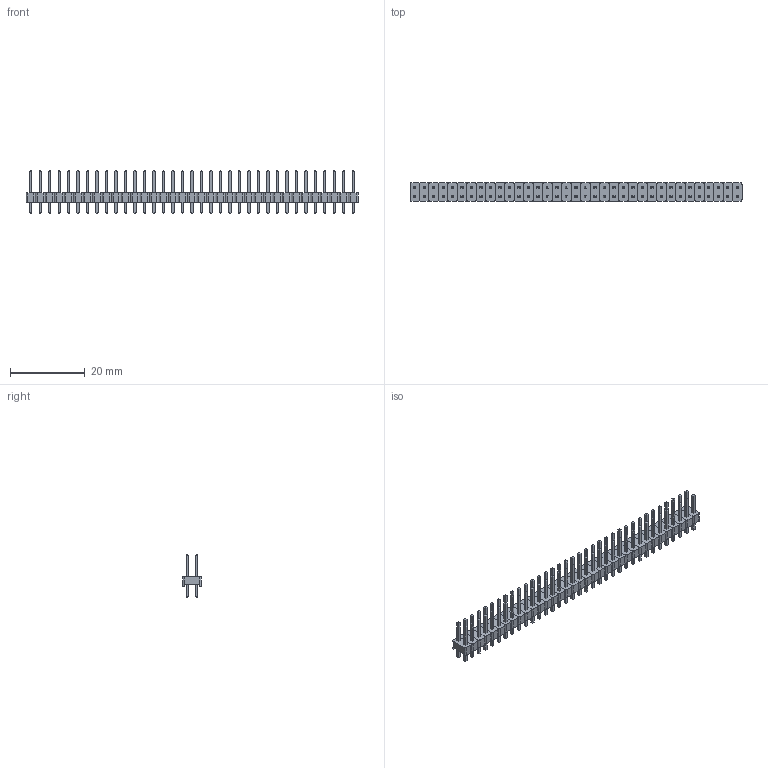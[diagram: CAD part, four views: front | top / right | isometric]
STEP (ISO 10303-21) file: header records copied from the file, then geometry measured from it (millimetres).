
FILE_DESCRIPTION(('FreeCAD Model'),'2;1');
FILE_NAME('Open CASCADE Shape Model','2022-04-06T16:10:10',( 'Engenharia Metaltex'),('Metaltex'), 'Open CASCADE STEP processor 7.5','FreeCAD','Unknown');
FILE_SCHEMA(('AUTOMOTIVE_DESIGN { 1 0 10303 214 1 1 1 1 }'));
Length unit declared in the file: millimetre
Products named in the file (141): BPDC; 35; Base034; Pino070; Pino069; 1; Base; Pino1; Pino2; 2; Base001; Pino003; Pino004; 3; Base002; Pino006; Pino005; 4; Base003; Pino008; Pino007; 5; Base004; Pino009; Pino010; 6; Base005; Pino012; Pino011; 7; Base006; Pino013; Pino014; 8; Base007; Pino015; Pino016; 9; Base008; Pino017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
Assembly tree (140 placements, depth 3):
  BPDC
    35
      Base034
      Pino070
      Pino069
    1
      Base
      Pino1
      Pino2
    2
      Base001
      Pino003
      Pino004
    3
      Base002
      Pino006
      Pino005
    4
      Base003
      Pino008
      Pino007
    5
      Base004
      Pino009
      Pino010
    6
      Base005
      Pino012
      Pino011
    7
      Base006
      Pino013
      Pino014
    8
      Base007
      Pino015
      Pino016
    9
      Base008
      Pino017
      Pino018
    10
      Base009
      Pino019
      Pino020
    11
      Base010
      Pino021
      Pino022
    12
      Base011
      Pino023
      Pino024
    13
      Base012
      Pino025
      Pino026
    14
      Base013
      Pino027
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Bounding box: 88.9 x 5.08 x 11.54 mm (x, y, z)
Volume: 1222.3 mm3; surface area: 4502.1 mm2
Topology: 105 solids, 105 shells, 1750 faces, 4060 edges, 2520 vertices
Faces by surface type: plane 1610, cylinder 140
Entity records: 105019 total; most frequent: CARTESIAN_POINT 17431, DIRECTION 16102, LINE 11620, VECTOR 11620, ORIENTED_EDGE 8120, PCURVE 8120, DEFINITIONAL_REPRESENTATION 8120, EDGE_CURVE 4060
